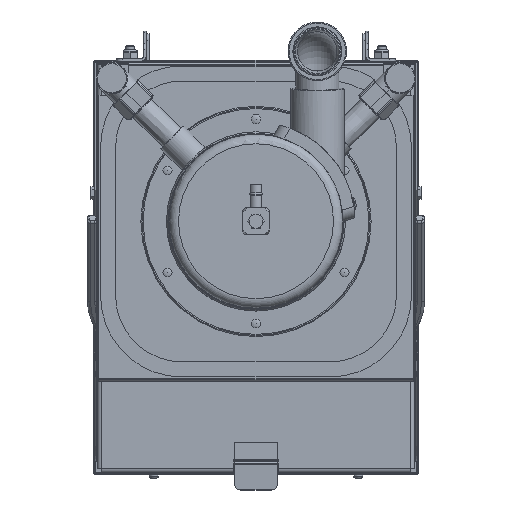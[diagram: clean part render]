
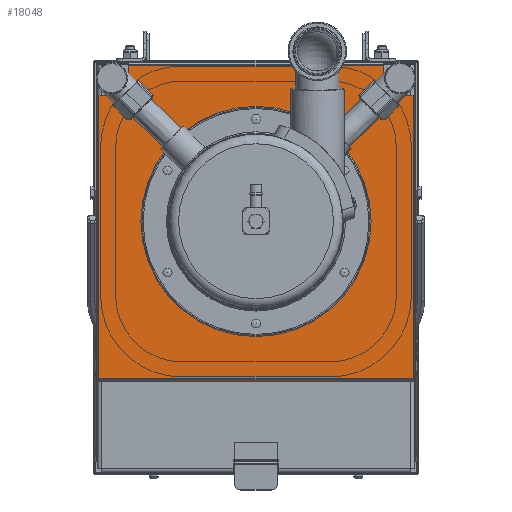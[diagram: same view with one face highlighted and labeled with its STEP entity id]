
A CAD part, top view. The second image highlights one B-rep face of the part: STEP entity #18048.
In plain terms, the highlighted planar face has unit normal (0, 0, 1).
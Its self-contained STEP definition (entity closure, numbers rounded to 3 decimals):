
#484=FACE_BOUND('',#3092,.T.);
#485=FACE_BOUND('',#3093,.T.);
#486=FACE_BOUND('',#3094,.T.);
#947=PLANE('',#19985);
#1976=FACE_OUTER_BOUND('',#3091,.T.);
#3091=EDGE_LOOP('',(#15975,#15976,#15977,#15978,#15979,#15980,#15981,#15982,
#15983,#15984));
#3092=EDGE_LOOP('',(#15985,#15986));
#3093=EDGE_LOOP('',(#15987,#15988,#15989,#15990));
#3094=EDGE_LOOP('',(#15991,#15992,#15993,#15994));
#3473=CIRCLE('',#18610,107.);
#3474=CIRCLE('',#18611,107.);
#4146=CIRCLE('',#19986,15.5);
#4147=CIRCLE('',#19987,15.5);
#4576=LINE('',#27214,#5963);
#4588=LINE('',#27250,#5975);
#4604=LINE('',#27291,#5991);
#4616=LINE('',#27326,#6003);
#4641=LINE('',#27379,#6028);
#4642=LINE('',#27382,#6029);
#4644=LINE('',#27386,#6031);
#4645=LINE('',#27388,#6032);
#5554=LINE('',#32045,#6941);
#5555=LINE('',#32047,#6942);
#5556=LINE('',#32049,#6943);
#5557=LINE('',#32051,#6944);
#5558=LINE('',#32053,#6945);
#5559=LINE('',#32057,#6946);
#5560=LINE('',#32059,#6947);
#5561=LINE('',#32061,#6948);
#5963=VECTOR('',#21285,10.);
#5975=VECTOR('',#21315,10.);
#5991=VECTOR('',#21349,10.);
#6003=VECTOR('',#21379,10.);
#6028=VECTOR('',#21448,10.);
#6029=VECTOR('',#21453,10.);
#6031=VECTOR('',#21459,10.);
#6032=VECTOR('',#21462,10.);
#6941=VECTOR('',#24999,10.);
#6942=VECTOR('',#25000,10.);
#6943=VECTOR('',#25001,10.);
#6944=VECTOR('',#25002,10.);
#6945=VECTOR('',#25003,10.);
#6946=VECTOR('',#25006,10.);
#6947=VECTOR('',#25007,10.);
#6948=VECTOR('',#25008,10.);
#7427=VERTEX_POINT('',#27184);
#7428=VERTEX_POINT('',#27186);
#7438=VERTEX_POINT('',#27211);
#7439=VERTEX_POINT('',#27213);
#7453=VERTEX_POINT('',#27247);
#7454=VERTEX_POINT('',#27249);
#7469=VERTEX_POINT('',#27288);
#7470=VERTEX_POINT('',#27290);
#7483=VERTEX_POINT('',#27323);
#7484=VERTEX_POINT('',#27325);
#8548=VERTEX_POINT('',#32043);
#8549=VERTEX_POINT('',#32044);
#8550=VERTEX_POINT('',#32046);
#8551=VERTEX_POINT('',#32048);
#8552=VERTEX_POINT('',#32050);
#8553=VERTEX_POINT('',#32052);
#8554=VERTEX_POINT('',#32054);
#8555=VERTEX_POINT('',#32056);
#8556=VERTEX_POINT('',#32058);
#8557=VERTEX_POINT('',#32060);
#9267=EDGE_CURVE('',#7428,#7427,#3473,.T.);
#9268=EDGE_CURVE('',#7427,#7428,#3474,.T.);
#9281=EDGE_CURVE('',#7439,#7438,#4576,.T.);
#9299=EDGE_CURVE('',#7454,#7453,#4588,.T.);
#9321=EDGE_CURVE('',#7470,#7469,#4604,.T.);
#9339=EDGE_CURVE('',#7484,#7483,#4616,.T.);
#9366=EDGE_CURVE('',#7469,#7484,#4641,.T.);
#9367=EDGE_CURVE('',#7483,#7470,#4642,.T.);
#9369=EDGE_CURVE('',#7438,#7454,#4644,.T.);
#9370=EDGE_CURVE('',#7453,#7439,#4645,.T.);
#11085=EDGE_CURVE('',#8548,#8549,#5554,.T.);
#11086=EDGE_CURVE('',#8550,#8549,#5555,.T.);
#11087=EDGE_CURVE('',#8550,#8551,#5556,.T.);
#11088=EDGE_CURVE('',#8552,#8551,#5557,.T.);
#11089=EDGE_CURVE('',#8552,#8553,#5558,.T.);
#11090=EDGE_CURVE('',#8553,#8554,#4146,.T.);
#11091=EDGE_CURVE('',#8554,#8555,#5559,.T.);
#11092=EDGE_CURVE('',#8555,#8556,#5560,.T.);
#11093=EDGE_CURVE('',#8556,#8557,#5561,.T.);
#11094=EDGE_CURVE('',#8557,#8548,#4147,.T.);
#15975=ORIENTED_EDGE('',*,*,#11085,.T.);
#15976=ORIENTED_EDGE('',*,*,#11086,.F.);
#15977=ORIENTED_EDGE('',*,*,#11087,.T.);
#15978=ORIENTED_EDGE('',*,*,#11088,.F.);
#15979=ORIENTED_EDGE('',*,*,#11089,.T.);
#15980=ORIENTED_EDGE('',*,*,#11090,.T.);
#15981=ORIENTED_EDGE('',*,*,#11091,.T.);
#15982=ORIENTED_EDGE('',*,*,#11092,.T.);
#15983=ORIENTED_EDGE('',*,*,#11093,.T.);
#15984=ORIENTED_EDGE('',*,*,#11094,.T.);
#15985=ORIENTED_EDGE('',*,*,#9267,.T.);
#15986=ORIENTED_EDGE('',*,*,#9268,.T.);
#15987=ORIENTED_EDGE('',*,*,#9321,.T.);
#15988=ORIENTED_EDGE('',*,*,#9366,.T.);
#15989=ORIENTED_EDGE('',*,*,#9339,.T.);
#15990=ORIENTED_EDGE('',*,*,#9367,.T.);
#15991=ORIENTED_EDGE('',*,*,#9281,.T.);
#15992=ORIENTED_EDGE('',*,*,#9369,.T.);
#15993=ORIENTED_EDGE('',*,*,#9299,.T.);
#15994=ORIENTED_EDGE('',*,*,#9370,.T.);
#18048=ADVANCED_FACE('',(#1976,#484,#485,#486),#947,.T.);
#18610=AXIS2_PLACEMENT_3D('',#27187,#21261,#21262);
#18611=AXIS2_PLACEMENT_3D('',#27188,#21263,#21264);
#19985=AXIS2_PLACEMENT_3D('',#32042,#24997,#24998);
#19986=AXIS2_PLACEMENT_3D('',#32055,#25004,#25005);
#19987=AXIS2_PLACEMENT_3D('',#32062,#25009,#25010);
#21261=DIRECTION('center_axis',(0.,0.,-1.));
#21262=DIRECTION('ref_axis',(0.,-1.,0.));
#21263=DIRECTION('center_axis',(0.,0.,-1.));
#21264=DIRECTION('ref_axis',(0.,-1.,0.));
#21285=DIRECTION('',(0.707,-0.707,0.));
#21315=DIRECTION('',(-0.707,0.707,0.));
#21349=DIRECTION('',(-0.707,-0.707,0.));
#21379=DIRECTION('',(0.707,0.707,0.));
#21448=DIRECTION('',(-0.707,0.707,0.));
#21453=DIRECTION('',(0.707,-0.707,0.));
#21459=DIRECTION('',(-0.707,-0.707,0.));
#21462=DIRECTION('',(0.707,0.707,0.));
#24997=DIRECTION('center_axis',(0.,0.,1.));
#24998=DIRECTION('ref_axis',(0.,-1.,0.));
#24999=DIRECTION('',(-1.,0.,0.));
#25000=DIRECTION('',(0.,1.,0.));
#25001=DIRECTION('',(1.,0.,0.));
#25002=DIRECTION('',(0.,-1.,0.));
#25003=DIRECTION('',(-1.,0.,0.));
#25004=DIRECTION('center_axis',(0.,0.,-1.));
#25005=DIRECTION('ref_axis',(-1.,0.,0.));
#25006=DIRECTION('',(0.,1.,0.));
#25007=DIRECTION('',(-1.,0.,0.));
#25008=DIRECTION('',(0.,-1.,0.));
#25009=DIRECTION('center_axis',(0.,0.,-1.));
#25010=DIRECTION('ref_axis',(0.,1.,0.));
#27184=CARTESIAN_POINT('',(0.,342.,452.5));
#27186=CARTESIAN_POINT('',(0.,128.,452.5));
#27187=CARTESIAN_POINT('Origin',(0.,235.,452.5));
#27188=CARTESIAN_POINT('Origin',(0.,235.,452.5));
#27211=CARTESIAN_POINT('',(110.665,365.172,452.5));
#27213=CARTESIAN_POINT('',(109.605,366.232,452.5));
#27214=CARTESIAN_POINT('',(79.292,396.545,452.5));
#27247=CARTESIAN_POINT('',(95.463,352.09,452.5));
#27249=CARTESIAN_POINT('',(96.523,351.029,452.5));
#27250=CARTESIAN_POINT('',(64.62,382.933,452.5));
#27288=CARTESIAN_POINT('',(-96.523,351.029,452.5));
#27290=CARTESIAN_POINT('',(-95.463,352.09,452.5));
#27291=CARTESIAN_POINT('',(-65.15,382.403,452.5));
#27323=CARTESIAN_POINT('',(-109.605,366.232,452.5));
#27325=CARTESIAN_POINT('',(-110.665,365.172,452.5));
#27326=CARTESIAN_POINT('',(-78.762,397.075,452.5));
#27379=CARTESIAN_POINT('',(-86.706,341.212,452.5));
#27382=CARTESIAN_POINT('',(-78.574,335.202,452.5));
#27386=CARTESIAN_POINT('',(79.635,334.141,452.5));
#27388=CARTESIAN_POINT('',(85.646,342.273,452.5));
#32042=CARTESIAN_POINT('Origin',(0.,380.,452.5));
#32043=CARTESIAN_POINT('',(-134.,352.5,452.5));
#32044=CARTESIAN_POINT('',(-146.,352.5,452.5));
#32045=CARTESIAN_POINT('',(-67.,352.5,452.5));
#32046=CARTESIAN_POINT('',(-146.,89.,452.5));
#32047=CARTESIAN_POINT('',(-146.,89.,452.5));
#32048=CARTESIAN_POINT('',(146.,89.,452.5));
#32049=CARTESIAN_POINT('',(0.,89.,452.5));
#32050=CARTESIAN_POINT('',(146.,352.5,452.5));
#32051=CARTESIAN_POINT('',(146.,89.,452.5));
#32052=CARTESIAN_POINT('',(134.,352.5,452.5));
#32053=CARTESIAN_POINT('',(73.,352.5,452.5));
#32054=CARTESIAN_POINT('',(118.5,368.,452.5));
#32055=CARTESIAN_POINT('Origin',(134.,368.,452.5));
#32056=CARTESIAN_POINT('',(118.5,380.,452.5));
#32057=CARTESIAN_POINT('',(118.5,374.,452.5));
#32058=CARTESIAN_POINT('',(-118.5,380.,452.5));
#32059=CARTESIAN_POINT('',(0.,380.,452.5));
#32060=CARTESIAN_POINT('',(-118.5,368.,452.5));
#32061=CARTESIAN_POINT('',(-118.5,381.25,452.5));
#32062=CARTESIAN_POINT('Origin',(-134.,368.,452.5));
